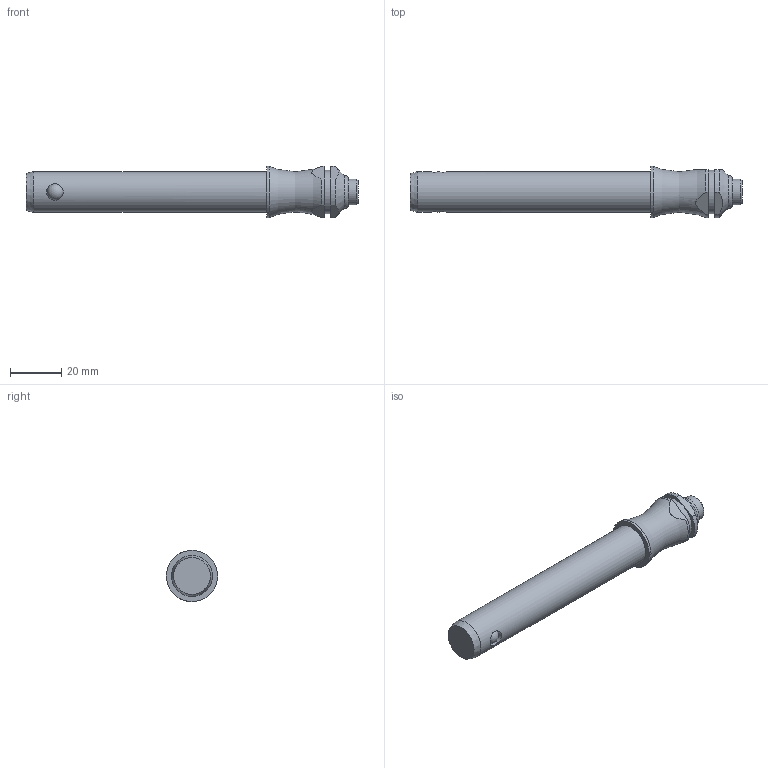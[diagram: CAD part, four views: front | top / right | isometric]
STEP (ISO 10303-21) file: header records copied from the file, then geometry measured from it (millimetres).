
FILE_DESCRIPTION( ( 'STEP AP203' ), '1' );
FILE_NAME( 'C:/Temp/Ganter_Step_05_03_2020/data/3_1/gn113_3/Stainless Steel-Ball lock pin GN 113.3-16-80 (activated).stp', '2020-03-12T08:18:56', ( 'License CC BY-ND 4.0' ), ( 'CADENAS' ), ' ', 'PARTsolutions', ' ' );
FILE_SCHEMA( ( 'CONFIG_CONTROL_DESIGN' ) );
Length unit declared in the file: millimetre
Products named in the file (1): _Stainless Steel-Ball lock pin GN 113.3-16-80 (activated)
Bounding box: 129.75 x 20 x 20 mm (x, y, z)
Volume: 26448.3 mm3; surface area: 7331.7 mm2
Topology: 1 solids, 1 shells, 30 faces, 68 edges, 43 vertices
Faces by surface type: cylinder 12, plane 11, cone 3, torus 2, sphere 2
Full cylindrical faces by diameter (mm): 6.5 x2, 10 x1, 16 x1, 17 x1, 20 x1
Entity records: 1014 total; most frequent: CARTESIAN_POINT 364, DIRECTION 130, ORIENTED_EDGE 102, AXIS2_PLACEMENT_3D 56, EDGE_CURVE 51, EDGE_LOOP 46, VERTEX_POINT 40, FACE_OUTER_BOUND 38
